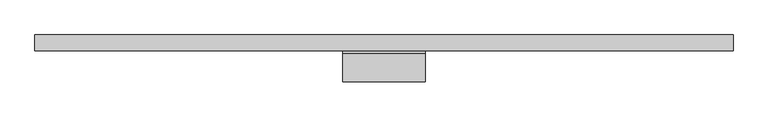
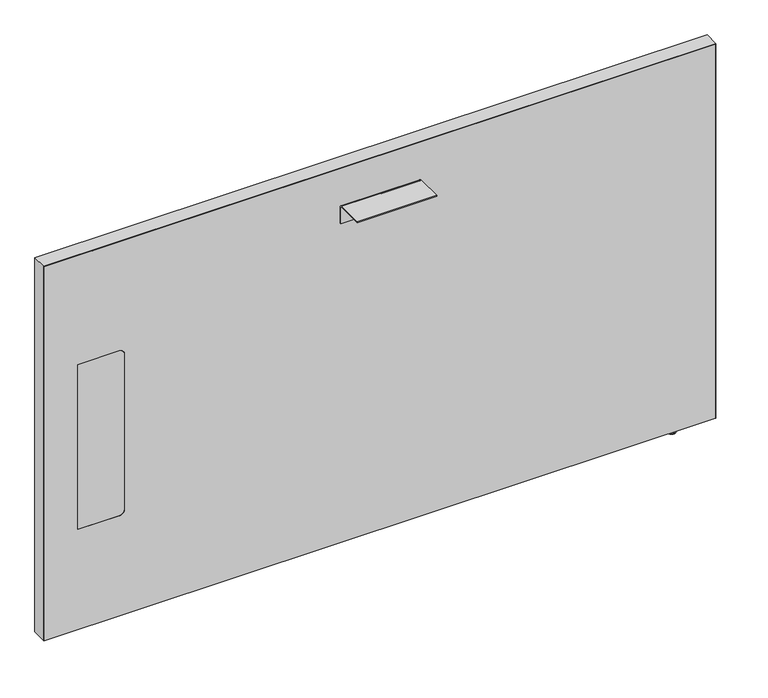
"""IFC4 building model written with IfcOpenShell, lengths in millimetres: furniture geometry, Steelcase - Answer Solution - Boundary Screen - Straight - Single Sided : 30H x 51W."""

import ifcopenshell
import ifcopenshell.guid

model = None  # the IFC model being written
_history = None  # IfcOwnerHistory: only IFC2X3 demands one
_inside = {}  # id of a spatial element -> (the spatial element, [elements in it])
_under = {}  # id of a project, library or spatial element -> (it, [spatial elements below it])
_declared = {}  # id of a project -> (the project, [libraries it declares])
_typed = {}  # id of a type object -> (the type object, [elements of that type])
_made_of = {}  # id of a material, layer set ... -> (it, [elements and type objects made of it])


def new_model(schema):
    """Start an empty IFC model of exactly this schema.

    Asked for "IFC4X3", IfcOpenShell would pick the latest addendum, in which some entities
    have other attributes; the version numbers below select the first issue.
    IFC2X3 requires an IfcOwnerHistory on every rooted entity: one is made here for all.
    """
    global model, _history
    if schema == "IFC4X3":
        model = ifcopenshell.file(schema_version=(4, 3, 0, 0))
    else:
        model = ifcopenshell.file(schema=schema)
    _inside.clear()
    _under.clear()
    _declared.clear()
    _typed.clear()
    _made_of.clear()
    _history = None
    if model.schema == "IFC2X3":
        org = make("IfcOrganization", Name="unknown")
        user = make(
            "IfcPersonAndOrganization",
            ThePerson=make("IfcPerson", FamilyName="unknown"),
            TheOrganization=org,
        )
        app = make(
            "IfcApplication",
            ApplicationDeveloper=org,
            Version="unknown",
            ApplicationFullName="unknown",
            ApplicationIdentifier="unknown",
        )
        _history = make(
            "IfcOwnerHistory",
            OwningUser=user,
            OwningApplication=app,
            ChangeAction="ADDED",
            CreationDate=0,
        )
    return model


def make(cls, **values):
    """One entity of the class cls with the attributes given. An attribute that is None is left unset."""
    return model.create_entity(
        cls, **{name: value for name, value in values.items() if value is not None}
    )


def rooted(cls, **values):
    """An entity with a GlobalId (a new one), such as an element, a storey or a relation."""
    return make(cls, GlobalId=ifcopenshell.guid.new(), OwnerHistory=_history, **values)


def si_unit(unit_type, name, prefix=None):
    """IfcSIUnit, for example si_unit("LENGTHUNIT", "METRE", prefix="MILLI")."""
    return make("IfcSIUnit", UnitType=unit_type, Prefix=prefix, Name=name)


def assignment(units):
    """IfcUnitAssignment: the units of a project."""
    return None if units is None else make("IfcUnitAssignment", Units=units)


def point(xyz):
    """IfcCartesianPoint."""
    return None if xyz is None else make("IfcCartesianPoint", Coordinates=xyz)


def direction(xyz):
    """IfcDirection."""
    return None if xyz is None else make("IfcDirection", DirectionRatios=xyz)


def frame(location, z_axis=None, x_axis=None):
    """IfcAxis2Placement3D, a coordinate frame: its origin and axes. An axis left out is left unset."""
    return make(
        "IfcAxis2Placement3D",
        Location=point(location),
        Axis=direction(z_axis),
        RefDirection=direction(x_axis),
    )


def frame_2d(location, x_axis=None):
    """IfcAxis2Placement2D, a coordinate frame in the plane: its origin and x axis."""
    return make(
        "IfcAxis2Placement2D", Location=point(location), RefDirection=direction(x_axis)
    )


def origin():
    """The frame at (0, 0, 0) with its axes left unset."""
    return frame((0.0, 0.0, 0.0))


def place(relative_to, where):
    """IfcLocalPlacement: puts the frame where relative to a parent placement (None: the world)."""
    return make(
        "IfcLocalPlacement", PlacementRelTo=relative_to, RelativePlacement=where
    )


def context(
    kind, dimensions, precision=None, world=None, true_north=None, identifier=None
):
    """IfcGeometricRepresentationContext, for example the 3D "Model" context."""
    return make(
        "IfcGeometricRepresentationContext",
        ContextIdentifier=identifier,
        ContextType=kind,
        CoordinateSpaceDimension=dimensions,
        Precision=precision,
        WorldCoordinateSystem=world,
        TrueNorth=true_north,
    )


def project(units=None, contexts=None):
    """IfcProject with its units and contexts."""
    return rooted(
        "IfcProject",
        Name="project",
        RepresentationContexts=contexts,
        UnitsInContext=assignment(units),
    )


def spatial(cls, under=None, at=None, **own):
    """A site, building, storey or space (cls), placed at a placement, below another one or the project."""
    s = rooted(cls, ObjectPlacement=at, **own)
    if under is not None:
        _under.setdefault(under.id(), (under, []))[1].append(s)
    return s


def polyline(points):
    """IfcPolyline through the points."""
    return make("IfcPolyline", Points=[point(p) for p in points])


def circle_curve(where, radius):
    """IfcCircle in the frame where."""
    return make("IfcCircle", Position=where, Radius=radius)


def ellipse_curve(where, semi_axis1, semi_axis2):
    """IfcEllipse in the frame where."""
    return make(
        "IfcEllipse", Position=where, SemiAxis1=semi_axis1, SemiAxis2=semi_axis2
    )


def trimmed(basis, trim1, trim2, sense, master):
    """IfcTrimmedCurve: the piece of a basis curve between two trims."""
    return make(
        "IfcTrimmedCurve",
        BasisCurve=basis,
        Trim1=trim1,
        Trim2=trim2,
        SenseAgreement=sense,
        MasterRepresentation=master,
    )


def segment(curve, same_sense, transition):
    """IfcCompositeCurveSegment."""
    return make(
        "IfcCompositeCurveSegment",
        Transition=transition,
        SameSense=same_sense,
        ParentCurve=curve,
    )


def composite_curve(segments, self_intersect=None):
    """IfcCompositeCurve: segments joined end to end."""
    return make("IfcCompositeCurve", Segments=segments, SelfIntersect=self_intersect)


def outline(outer, holes=None, kind="AREA"):
    """IfcArbitraryClosedProfileDef: a profile drawn as a closed curve; with holes, ...WithVoids."""
    if holes is None:
        return make("IfcArbitraryClosedProfileDef", ProfileType=kind, OuterCurve=outer)
    return make(
        "IfcArbitraryProfileDefWithVoids",
        ProfileType=kind,
        OuterCurve=outer,
        InnerCurves=holes,
    )


def extrude(swept, where, along, depth):
    """IfcExtrudedAreaSolid: the profile swept, set in the frame where, extruded along a direction by depth."""
    return make(
        "IfcExtrudedAreaSolid",
        SweptArea=swept,
        Position=where,
        ExtrudedDirection=direction(along),
        Depth=depth,
    )


def shape(context_of_items, identifier, shape_type, items):
    """IfcShapeRepresentation: the items that make up one representation, for example the "Body"."""
    return make(
        "IfcShapeRepresentation",
        ContextOfItems=context_of_items,
        RepresentationIdentifier=identifier,
        RepresentationType=shape_type,
        Items=items,
    )


def source(mapping_origin, context_of_items, identifier, shape_type, items):
    """IfcRepresentationMap: a shape defined once, which mapped items show again and again."""
    return make(
        "IfcRepresentationMap",
        MappingOrigin=mapping_origin,
        MappedRepresentation=shape(context_of_items, identifier, shape_type, items),
    )


def transform(
    local_origin,
    x_axis=None,
    y_axis=None,
    z_axis=None,
    scale=None,
    scale2=None,
    scale3=None,
    uniform=True,
):
    """IfcCartesianTransformationOperator3D, or its non-uniform kind. x_axis, y_axis, z_axis: its Axis1, 2, 3."""
    if uniform:
        return make(
            "IfcCartesianTransformationOperator3D",
            Axis1=direction(x_axis),
            Axis2=direction(y_axis),
            LocalOrigin=point(local_origin),
            Scale=scale,
            Axis3=direction(z_axis),
        )
    return make(
        "IfcCartesianTransformationOperator3DnonUniform",
        Axis1=direction(x_axis),
        Axis2=direction(y_axis),
        LocalOrigin=point(local_origin),
        Scale=scale,
        Axis3=direction(z_axis),
        Scale2=scale2,
        Scale3=scale3,
    )


def mapped(mapping_source, mapping_target):
    """IfcMappedItem: shows the shape of a source again, moved by a transform."""
    return make(
        "IfcMappedItem", MappingSource=mapping_source, MappingTarget=mapping_target
    )


def made_of(thing, what):
    """Note that an element or type object is made of a material, layer set ...; save() writes the relation."""
    if what is not None:
        _made_of.setdefault(what.id(), (what, []))[1].append(thing)
    return thing


def element(
    cls,
    number,
    at=None,
    inside=None,
    cuts=None,
    type_object=None,
    material=None,
    context=None,
    identifier="Body",
    shape_type=None,
    held_by="IfcProductDefinitionShape",
    body=None,
    shapes=None,
    **own,
):
    """One element of the class cls, such as IfcWall. Its Tag is "e" and its number.

    at: its placement. inside: the storey or other place that contains it. cuts: it is an
    opening in that element (IfcRelVoidsElement). A single representation is given by context,
    identifier, shape_type and body (its items); several are given by shapes. held_by: the class
    of the entity that holds the representations. save() writes the other relations.
    """
    e = rooted(cls, Tag="e%d" % number, ObjectPlacement=at, **own)
    if body is not None:
        shapes = [shape(context, identifier, shape_type, body)]
    if shapes is not None:
        e.Representation = make(held_by, Representations=shapes)
    if inside is not None:
        _inside.setdefault(inside.id(), (inside, []))[1].append(e)
    if cuts is not None:
        rooted(
            "IfcRelVoidsElement", RelatingBuildingElement=cuts, RelatedOpeningElement=e
        )
    if type_object is not None:
        _typed.setdefault(type_object.id(), (type_object, []))[1].append(e)
    return made_of(e, material)


def aggregate(whole, parts):
    """IfcRelAggregates: a whole, such as a stair, and the parts it consists of."""
    return rooted("IfcRelAggregates", RelatingObject=whole, RelatedObjects=parts)


def save(model, path):
    """Write the relations noted so far, then the file.

    IfcRelAggregates (storeys below a building ...), IfcRelContainedInSpatialStructure (elements
    in a storey), IfcRelDefinesByType, IfcRelAssociatesMaterial and IfcRelDeclares: one each for
    every whole, place, type object, material and project.
    """
    for whole, parts in _under.values():
        aggregate(whole, parts)
    for where, things in _inside.values():
        rooted(
            "IfcRelContainedInSpatialStructure",
            RelatedElements=things,
            RelatingStructure=where,
        )
    for kind, things in _typed.values():
        rooted("IfcRelDefinesByType", RelatedObjects=things, RelatingType=kind)
    for what, things in _made_of.values():
        rooted("IfcRelAssociatesMaterial", RelatedObjects=things, RelatingMaterial=what)
    for by, libraries in _declared.values():
        rooted("IfcRelDeclares", RelatingContext=by, RelatedDefinitions=libraries)
    model.write(path)


def plane_surface(at):
    """IfcPlane: the flat surface through the origin of the frame at, square to its z axis."""
    return make("IfcPlane", Position=at)


def cylinder_surface(at, radius):
    """IfcCylindricalSurface: all points at the distance radius from the z axis of the frame at."""
    return make("IfcCylindricalSurface", Position=at, Radius=radius)


def revolved_surface(curve, axis_point, axis_direction):
    """IfcSurfaceOfRevolution: the curve turned about the line through axis_point along axis_direction."""
    return make(
        "IfcSurfaceOfRevolution",
        SweptCurve=make("IfcArbitraryOpenProfileDef", ProfileType="CURVE", Curve=curve),
        AxisPosition=make("IfcAxis1Placement", Location=point(axis_point), Axis=direction(axis_direction)),
    )


def advanced_brep(points, edges, surfaces, faces):
    """IfcAdvancedBrep: a solid bounded by faces that lie on surfaces and meet in shared edges.

    An edge is (start, end): straight between two places in points (the first is 0);
    or (start, end, curve); or (start, end, curve, False) where it runs against its curve.
    A face is (place in surfaces, loops), or (place, loops, False) where it looks against
    its surface's normal. A loop lists edges by number (the first is 1), with a minus sign
    where the edge is run from its end to its start. The first loop is the outer one.
    """
    corners = [point(p) for p in points]
    vertices = [make("IfcVertexPoint", VertexGeometry=c) for c in corners]
    made = []
    for start, end, *more in edges:
        made.append(
            make(
                "IfcEdgeCurve",
                EdgeStart=vertices[start],
                EdgeEnd=vertices[end],
                EdgeGeometry=more[0] if more else make("IfcPolyline", Points=[corners[start], corners[end]]),
                SameSense=more[1] if len(more) > 1 else True,
            )
        )
    hull = []
    for where, loops, *sense in faces:
        bounds = []
        for j, loop in enumerate(loops):
            ring = [make("IfcOrientedEdge", EdgeElement=made[abs(k) - 1], Orientation=k > 0) for k in loop]
            bounds.append(
                make(
                    "IfcFaceOuterBound" if j == 0 else "IfcFaceBound",
                    Bound=make("IfcEdgeLoop", EdgeList=ring),
                    Orientation=True,
                )
            )
        hull.append(make("IfcAdvancedFace", Bounds=bounds, FaceSurface=surfaces[where], SameSense=sense[0] if sense else True))
    return make("IfcAdvancedBrep", Outer=make("IfcClosedShell", CfsFaces=hull))


def furniture_00ab2345(model_context):
    return source(origin(), model_context, "Body", "SolidModel", [
        extrude(outline(composite_curve([segment(polyline([(-86.8398151, 696.4680019), (-86.8398151, 698.5), (-34.9450855, 698.5)]), True, "CONTINUOUS"), segment(trimmed(circle_curve(frame_2d((-34.9450855, 693.2447477)), 5.2552523), [point((-34.9450855, 698.5))], [point((-29.6898332, 693.2447477))], False, "CARTESIAN"), True, "CONTINUOUS"), segment(polyline([(-29.6898332, 693.2447477), (-29.6898332, 660.4), (-31.7218162, 660.4), (-31.7218162, 693.0058743)]), True, "CONTINUOUS"), segment(trimmed(circle_curve(frame_2d((-35.1839438, 693.0058743)), 3.4621276), [point((-31.7218162, 693.0058743))], [point((-35.1839438, 696.4680019))], True, "CARTESIAN"), True, "CONTINUOUS"), segment(polyline([(-35.1839438, 696.4680019), (-86.8398151, 696.4680019)]), True, "CONTINUOUS")], self_intersect=False)), frame((-74.9808593, 0.0, 0.0), z_axis=(1.0, 0.0, 0.0), x_axis=(0.0, 1.0, 0.0)), (0.0, 0.0, 1.0), 152.4000969),
        advanced_brep(
        [(571.7286488, -23.7588726, 9.9059849), (571.7286488, -5.9309607, 9.9059849), (571.7286488, -14.8449166, 9.9059849), (571.7286488, -23.7588726, 2.9673238), (571.7286488, -5.9309607, 2.9673238), (571.7286488, -22.7915354, 2.9673238), (571.7286488, -6.8982978, 2.9673238), (571.7286488, -22.7915354, 1.6569081), (571.7286488, -6.8982978, 1.6569081), (571.7286488, -21.1346274, 0.0), (571.7286488, -8.5552059, 0.0), (571.7286488, -14.8449166, 0.0)],
        [
            (0, 1, circle_curve(frame((571.7286488, -14.8449166, 9.9059849), z_axis=(0.0, 0.0, 1.0), x_axis=(0.0, 1.0, 0.0)), 8.913956)),
            (1, 2),
            (2, 0),
            (1, 0, circle_curve(frame((571.7286488, -14.8449166, 9.9059849), z_axis=(0.0, 0.0, 1.0), x_axis=(0.0, 1.0, 0.0)), 8.913956)),
            (3, 4, circle_curve(frame((571.7286488, -14.8449166, 2.9673238), z_axis=(0.0, 0.0, 1.0), x_axis=(0.0, 1.0, 0.0)), 8.913956)),
            (4, 1),
            (0, 3),
            (4, 3, circle_curve(frame((571.7286488, -14.8449166, 2.9673238), z_axis=(0.0, 0.0, 1.0), x_axis=(0.0, 1.0, 0.0)), 8.913956)),
            (5, 6, circle_curve(frame((571.7286488, -14.8449166, 2.9673238), z_axis=(0.0, 0.0, 1.0), x_axis=(0.0, 1.0, 0.0)), 7.9466188)),
            (6, 4),
            (3, 5),
            (6, 5, circle_curve(frame((571.7286488, -14.8449166, 2.9673238), z_axis=(0.0, 0.0, 1.0), x_axis=(0.0, 1.0, 0.0)), 7.9466188)),
            (7, 8, circle_curve(frame((571.7286488, -14.8449166, 1.6569081), z_axis=(0.0, 0.0, 1.0), x_axis=(0.0, 1.0, 0.0)), 7.9466188)),
            (8, 6),
            (5, 7),
            (8, 7, circle_curve(frame((571.7286488, -14.8449166, 1.6569081), z_axis=(0.0, 0.0, 1.0), x_axis=(0.0, 1.0, 0.0)), 7.9466188)),
            (9, 10, circle_curve(frame((571.7286488, -14.8449166, 0.0), z_axis=(0.0, 0.0, 1.0), x_axis=(0.0, 1.0, 0.0)), 6.2897107)),
            (10, 8, circle_curve(frame((571.7286488, -8.5552059, 1.6569081), z_axis=(1.0, 0.0, 0.0), x_axis=(0.0, 1.0, 0.0)), 1.6569081)),
            (7, 9, circle_curve(frame((571.7286488, -21.1346274, 1.6569081), z_axis=(1.0, 0.0, 0.0), x_axis=(0.0, -1.0, 0.0)), 1.6569081)),
            (10, 9, circle_curve(frame((571.7286488, -14.8449166, 0.0), z_axis=(0.0, 0.0, 1.0), x_axis=(0.0, 1.0, 0.0)), 6.2897107)),
            (11, 10),
            (9, 11),
        ],
        [
            plane_surface(frame((571.7286488, -14.8449166, 9.9059849), z_axis=(0.0, 0.0, 1.0), x_axis=(0.0, 1.0, 0.0))),
            cylinder_surface(frame((571.7286488, -14.8449166, 9.9059849), z_axis=(0.0, 0.0, -1.0), x_axis=(0.0, 1.0, 0.0)), 8.913956),
            plane_surface(frame((571.7286488, -14.8449166, 2.9673238), z_axis=(0.0, 0.0, -1.0), x_axis=(0.0, 1.0, 0.0))),
            cylinder_surface(frame((571.7286488, -14.8449166, 9.9059849), z_axis=(0.0, 0.0, -1.0), x_axis=(0.0, 1.0, 0.0)), 7.9466188),
            revolved_surface(trimmed(ellipse_curve(frame((571.7286488, -8.5552059, 1.6569081), z_axis=(-1.0, 0.0, 0.0), x_axis=(0.0, 1.0, 0.0)), 1.6569081, 1.6569081), [point((571.7286488, -6.8982978, 1.6569081))], [point((571.7286488, -8.5552059, 0.0))], True, "CARTESIAN"), (571.7286488, -14.8449166, 9.9059849), (0.0, 0.0, -1.0)),
            plane_surface(frame((571.7286488, -14.8449166, 0.0), z_axis=(0.0, 0.0, -1.0), x_axis=(0.0, 1.0, 0.0))),
        ],
        [
            (0, [[1, 2, 3]]),
            (0, [[4, -3, -2]]),
            (1, [[5, 6, -1, 7]]),
            (1, [[8, -7, -4, -6]]),
            (2, [[9, 10, -5, 11]]),
            (2, [[12, -11, -8, -10]]),
            (3, [[13, 14, -9, 15]]),
            (3, [[16, -15, -12, -14]]),
            (4, [[17, 18, -13, 19]]),
            (4, [[20, -19, -16, -18]]),
            (5, [[21, -17, 22]]),
            (5, [[-22, -20, -21]]),
        ],
    ),
        advanced_brep(
        [(647.8780168, 0.0, 771.942118), (647.8780168, 0.0, 9.9059849), (-645.4902221, 0.0, 9.9059849), (-645.4902221, 0.0, 771.942118), (647.8780168, -29.6898332, 771.942118), (-645.4902221, -29.6898332, 771.942118), (-645.4902221, -29.6898332, 9.9059849), (647.8780168, -29.6898332, 9.9059849), (-501.1463873, -29.6898332, 549.6162029), (-490.9863873, -29.6898332, 539.4562029), (-490.9863873, -29.6898332, 223.9362137), (-501.1463873, -29.6898332, 213.7762137), (-580.800285, -29.6898332, 213.7762137), (-580.800285, -29.6898332, 549.6162029), (-580.800285, -29.0550397, 549.6162029), (-501.1463873, -29.0550397, 549.6162029), (-580.800285, -29.0550397, 213.7762137), (-501.1463873, -29.0550397, 213.7762137), (-490.9863873, -29.0550397, 223.9362137), (-490.9863873, -29.0550397, 539.4562029)],
        [
            (0, 1),
            (1, 2),
            (2, 3),
            (3, 0),
            (4, 5),
            (5, 6),
            (6, 7),
            (7, 4),
            (8, 9, circle_curve(frame((-501.1463873, -29.6898332, 539.4562029), z_axis=(0.0, 1.0, 0.0), x_axis=(0.0, 0.0, 1.0)), 10.16)),
            (9, 10),
            (10, 11, circle_curve(frame((-501.1463873, -29.6898332, 223.9362137), z_axis=(0.0, 1.0, 0.0), x_axis=(0.0, 0.0, 1.0)), 10.16)),
            (11, 12),
            (12, 13),
            (13, 8),
            (0, 4),
            (7, 1),
            (6, 2),
            (5, 3),
            (13, 14),
            (14, 15),
            (15, 8),
            (12, 16),
            (16, 14),
            (11, 17),
            (17, 16),
            (10, 18),
            (18, 17, circle_curve(frame((-501.1463873, -29.0550397, 223.9362137), z_axis=(0.0, 1.0, 0.0), x_axis=(0.0, 0.0, 1.0)), 10.16)),
            (9, 19),
            (19, 18),
            (15, 19, circle_curve(frame((-501.1463873, -29.0550397, 539.4562029), z_axis=(0.0, 1.0, 0.0), x_axis=(0.0, 0.0, 1.0)), 10.16)),
        ],
        [
            plane_surface(frame((647.8780168, 0.0, 771.942118), z_axis=(0.0, 1.0, 0.0), x_axis=(0.0, 0.0, -1.0))),
            plane_surface(frame((647.8780168, -29.6898332, 771.942118), z_axis=(0.0, -1.0, 0.0), x_axis=(0.0, 0.0, 1.0))),
            plane_surface(frame((647.8780168, 0.0, 771.942118), z_axis=(1.0, 0.0, 0.0), x_axis=(0.0, -1.0, 0.0))),
            plane_surface(frame((647.8780168, 0.0, 9.9059849), z_axis=(0.0, 0.0, -1.0), x_axis=(0.0, -1.0, 0.0))),
            plane_surface(frame((-645.4902221, 0.0, 9.9059849), z_axis=(-1.0, 0.0, 0.0), x_axis=(0.0, -1.0, 0.0))),
            plane_surface(frame((-645.4902221, 0.0, 771.942118), z_axis=(0.0, 0.0, 1.0), x_axis=(0.0, -1.0, 0.0))),
            plane_surface(frame((-501.1463873, 0.0, 549.6162029), z_axis=(0.0, 0.0, -1.0), x_axis=(0.0, -1.0, 0.0))),
            plane_surface(frame((-580.800285, 0.0, 549.6162029), z_axis=(1.0, 0.0, 0.0), x_axis=(0.0, -1.0, 0.0))),
            plane_surface(frame((-580.800285, 0.0, 213.7762137), z_axis=(0.0, 0.0, 1.0), x_axis=(0.0, -1.0, 0.0))),
            revolved_surface(polyline([(-501.1463873, -29.6898332, 234.0962137), (-501.1463873, -29.0550397, 234.0962137)]), (-501.1463873, -29.6898332, 223.9362137), (0.0, -1.0, 0.0)),
            plane_surface(frame((-490.9863873, 0.0, 223.9362137), z_axis=(-1.0, 0.0, 0.0), x_axis=(0.0, -1.0, 0.0))),
            revolved_surface(polyline([(-501.1463873, -29.6898332, 549.6162029), (-501.1463873, -29.0550397, 549.6162029)]), (-501.1463873, -29.6898332, 539.4562029), (0.0, -1.0, 0.0)),
            plane_surface(frame((-490.9863873, -29.0550397, 629.172953), z_axis=(0.0, -1.0, 0.0), x_axis=(0.0, 0.0, 1.0))),
        ],
        [
            (0, [[1, 2, 3, 4]]),
            (1, [[5, 6, 7, 8], [9, 10, 11, 12, 13, 14]]),
            (2, [[-1, 15, -8, 16]]),
            (3, [[-2, -16, -7, 17]]),
            (4, [[-3, -17, -6, 18]]),
            (5, [[-4, -18, -5, -15]]),
            (6, [[-14, 19, 20, 21]]),
            (7, [[-13, 22, 23, -19]]),
            (8, [[-12, 24, 25, -22]]),
            (9, [[-11, 26, 27, -24]]),
            (10, [[-10, 28, 29, -26]]),
            (11, [[-9, -21, 30, -28]]),
            (12, [[-20, -23, -25, -27, -29, -30]]),
        ],
    ),
        extrude(outline(composite_curve([segment(polyline([(549.6162029, -501.1463873), (549.6162029, -580.800285), (213.7762137, -580.800285), (213.7762137, -501.1463873)]), True, "CONTINUOUS"), segment(trimmed(circle_curve(frame_2d((223.9362137, -501.1463873)), 10.16), [point((213.7762137, -501.1463873))], [point((223.9362137, -490.9863873))], False, "CARTESIAN"), True, "CONTINUOUS"), segment(polyline([(223.9362137, -490.9863873), (539.4562029, -490.9863873)]), True, "CONTINUOUS"), segment(trimmed(circle_curve(frame_2d((539.4562029, -501.1463873)), 10.16), [point((539.4562029, -490.9863873))], [point((549.6162029, -501.1463873))], False, "CARTESIAN"), True, "CONTINUOUS")], self_intersect=False)), frame((0.0, -29.6898332, 0.0), z_axis=(0.0, 1.0, 0.0), x_axis=(0.0, 0.0, 1.0)), (0.0, 0.0, 1.0), 0.6347935),
        extrude(outline(polyline([(772.922, 648.9191891), (772.922, -646.4808109), (9.9059849, -646.4808109), (9.9059849, -645.4902221), (771.942118, -645.4902221), (771.942118, 647.8780168), (9.9059849, 647.8780168), (9.9059849, 648.9191891), (772.922, 648.9191891)])), frame((0.0, -29.6898332, 0.0), z_axis=(0.0, 1.0, 0.0), x_axis=(0.0, 0.0, 1.0)), (0.0, 0.0, 1.0), 29.6898332),
    ])


if __name__ == "__main__":
    model = new_model("IFC4")
    model_context = context("Model", 3, world=origin())
    ifc_project = project(units=[si_unit("LENGTHUNIT", "METRE", prefix="MILLI")], contexts=[model_context])
    site = spatial("IfcSite", under=ifc_project)
    building = spatial("IfcBuilding", under=site)
    placement = place(None, origin())
    furniture_shape = furniture_00ab2345(model_context)
    element("IfcFurniture", 1, ObjectType="Steelcase - Answer Solution - Boundary Screen - Straight - Single Sided : 30H x 51W", at=placement, inside=building, context=model_context, shape_type="MappedRepresentation", body=[
        mapped(furniture_shape, transform((0.0, 0.0, 0.0), x_axis=(1.0, 0.0, 0.0), y_axis=(0.0, 1.0, 0.0), z_axis=(0.0, 0.0, 1.0))),
    ])
    save(model, "model.ifc")
